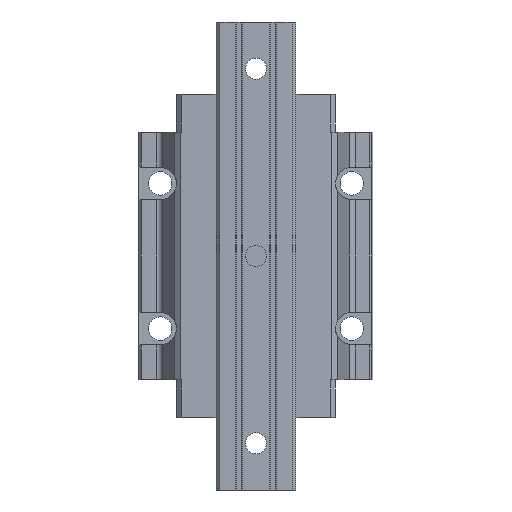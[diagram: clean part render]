
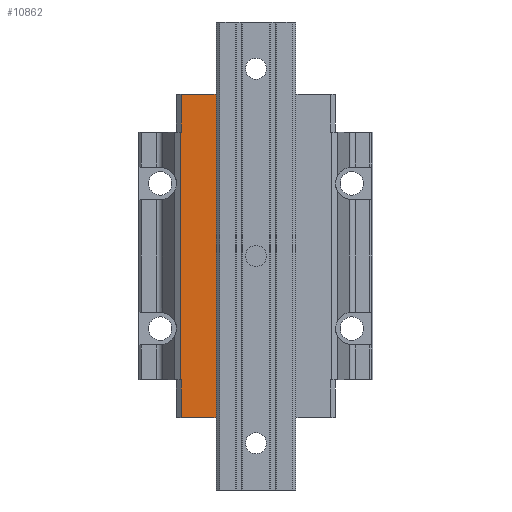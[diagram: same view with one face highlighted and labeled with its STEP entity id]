
A CAD part, front view. The second image highlights one B-rep face of the part: STEP entity #10862.
In plain terms, the highlighted planar face has unit normal (0, -1, 0).
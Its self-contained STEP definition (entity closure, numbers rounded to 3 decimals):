
#153 = EDGE_CURVE ( 'NONE', #36761, #37122, #17324, .T. ) ;
#1467 = LINE ( 'NONE', #18256, #18341 ) ;
#1610 = ORIENTED_EDGE ( 'NONE', *, *, #6664, .F. ) ;
#2090 = ORIENTED_EDGE ( 'NONE', *, *, #17023, .T. ) ;
#3327 = CARTESIAN_POINT ( 'NONE',  ( -32.366, -21.5, -52.9 ) ) ;
#4732 = LINE ( 'NONE', #16256, #12375 ) ;
#5112 = EDGE_CURVE ( 'NONE', #17421, #20591, #11444, .T. ) ;
#6005 = DIRECTION ( 'NONE',  ( 0., 0., -1. ) ) ;
#6319 = DIRECTION ( 'NONE',  ( 0., 0., -1. ) ) ;
#6664 = EDGE_CURVE ( 'NONE', #36761, #14809, #4732, .T. ) ;
#7210 = VECTOR ( 'NONE', #14487, 1000. ) ;
#7697 = EDGE_CURVE ( 'NONE', #20591, #8455, #15416, .T. ) ;
#7712 = EDGE_LOOP ( 'NONE', ( #11355, #29048, #2090, #22251, #1610, #24447, #33764, #15200 ) ) ;
#8455 = VERTEX_POINT ( 'NONE', #16710 ) ;
#9162 = CARTESIAN_POINT ( 'NONE',  ( -16.641, -21.5, 69.1 ) ) ;
#9473 = CARTESIAN_POINT ( 'NONE',  ( -32.001, -21.5, 69.1 ) ) ;
#10788 = CARTESIAN_POINT ( 'NONE',  ( -32.001, -21.5, -52.9 ) ) ;
#10862 = ADVANCED_FACE ( 'NONE', ( #17584 ), #34228, .T. ) ;
#11355 = ORIENTED_EDGE ( 'NONE', *, *, #7697, .T. ) ;
#11444 = LINE ( 'NONE', #3327, #30138 ) ;
#11669 = LINE ( 'NONE', #34357, #19160 ) ;
#12375 = VECTOR ( 'NONE', #27724, 1000. ) ;
#13250 = CARTESIAN_POINT ( 'NONE',  ( -32.001, -21.5, -69.1 ) ) ;
#13690 = CARTESIAN_POINT ( 'NONE',  ( -16.641, -21.5, -52.9 ) ) ;
#14095 = VERTEX_POINT ( 'NONE', #13250 ) ;
#14487 = DIRECTION ( 'NONE',  ( 0., 0., -1. ) ) ;
#14809 = VERTEX_POINT ( 'NONE', #9162 ) ;
#15200 = ORIENTED_EDGE ( 'NONE', *, *, #5112, .T. ) ;
#15416 = LINE ( 'NONE', #18257, #21350 ) ;
#16033 = AXIS2_PLACEMENT_3D ( 'NONE', #31391, #28919, #25894 ) ;
#16256 = CARTESIAN_POINT ( 'NONE',  ( 0., -21.5, 69.1 ) ) ;
#16703 = CARTESIAN_POINT ( 'NONE',  ( -32.366, -21.5, 52.9 ) ) ;
#16710 = CARTESIAN_POINT ( 'NONE',  ( -32.001, -21.5, -52.9 ) ) ;
#17023 = EDGE_CURVE ( 'NONE', #14095, #25252, #1467, .T. ) ;
#17324 = LINE ( 'NONE', #10788, #7210 ) ;
#17421 = VERTEX_POINT ( 'NONE', #16703 ) ;
#17584 = FACE_OUTER_BOUND ( 'NONE', #7712, .T. ) ;
#18256 = CARTESIAN_POINT ( 'NONE',  ( 0., -21.5, -69.1 ) ) ;
#18257 = CARTESIAN_POINT ( 'NONE',  ( 0., -21.5, -52.9 ) ) ;
#18341 = VECTOR ( 'NONE', #18634, 1000. ) ;
#18634 = DIRECTION ( 'NONE',  ( 1., 0., 0. ) ) ;
#19160 = VECTOR ( 'NONE', #6005, 1000. ) ;
#20591 = VERTEX_POINT ( 'NONE', #23657 ) ;
#21350 = VECTOR ( 'NONE', #33191, 1000. ) ;
#22234 = EDGE_CURVE ( 'NONE', #14809, #25252, #22747, .T. ) ;
#22251 = ORIENTED_EDGE ( 'NONE', *, *, #22234, .F. ) ;
#22442 = DIRECTION ( 'NONE',  ( -1., 0., 0. ) ) ;
#22747 = LINE ( 'NONE', #13690, #33649 ) ;
#23350 = VECTOR ( 'NONE', #22442, 1000. ) ;
#23657 = CARTESIAN_POINT ( 'NONE',  ( -32.366, -21.5, -52.9 ) ) ;
#24126 = CARTESIAN_POINT ( 'NONE',  ( -32.001, -21.5, 52.9 ) ) ;
#24447 = ORIENTED_EDGE ( 'NONE', *, *, #153, .T. ) ;
#25191 = DIRECTION ( 'NONE',  ( 0., 0., -1. ) ) ;
#25252 = VERTEX_POINT ( 'NONE', #36529 ) ;
#25894 = DIRECTION ( 'NONE',  ( 0., 0., -1. ) ) ;
#27724 = DIRECTION ( 'NONE',  ( 1., 0., 0. ) ) ;
#27865 = LINE ( 'NONE', #36806, #23350 ) ;
#28919 = DIRECTION ( 'NONE',  ( 0., -1., 0. ) ) ;
#29048 = ORIENTED_EDGE ( 'NONE', *, *, #31880, .T. ) ;
#30138 = VECTOR ( 'NONE', #6319, 1000. ) ;
#31391 = CARTESIAN_POINT ( 'NONE',  ( -32.366, -21.5, -52.9 ) ) ;
#31787 = EDGE_CURVE ( 'NONE', #37122, #17421, #27865, .T. ) ;
#31880 = EDGE_CURVE ( 'NONE', #8455, #14095, #11669, .T. ) ;
#33191 = DIRECTION ( 'NONE',  ( 1., 0., 0. ) ) ;
#33649 = VECTOR ( 'NONE', #25191, 1000. ) ;
#33764 = ORIENTED_EDGE ( 'NONE', *, *, #31787, .T. ) ;
#34228 = PLANE ( 'NONE',  #16033 ) ;
#34357 = CARTESIAN_POINT ( 'NONE',  ( -32.001, -21.5, -52.9 ) ) ;
#36529 = CARTESIAN_POINT ( 'NONE',  ( -16.641, -21.5, -69.1 ) ) ;
#36761 = VERTEX_POINT ( 'NONE', #9473 ) ;
#36806 = CARTESIAN_POINT ( 'NONE',  ( -32.366, -21.5, 52.9 ) ) ;
#37122 = VERTEX_POINT ( 'NONE', #24126 ) ;
